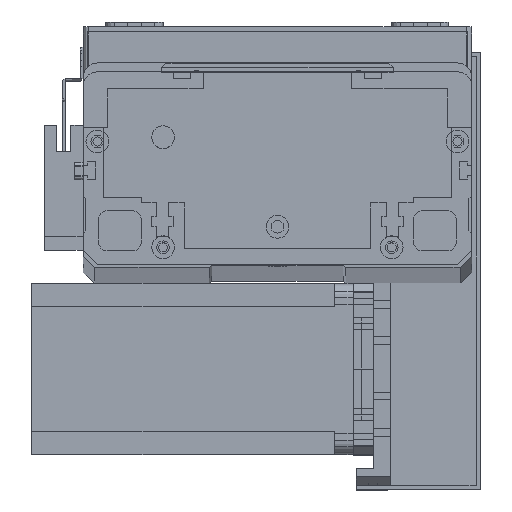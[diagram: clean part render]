
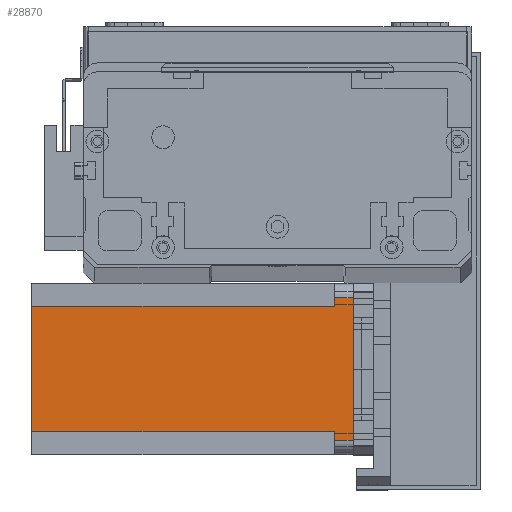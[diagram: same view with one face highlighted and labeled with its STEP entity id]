
A CAD part, top view. The second image highlights one B-rep face of the part: STEP entity #28870.
In plain terms, the highlighted planar face has unit normal (0, 0, 1) as drawn and (0, -1, 0) by its records, which use the part's own axes.
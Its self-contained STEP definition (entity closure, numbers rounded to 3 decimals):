
#622 = DIRECTION ( 'NONE',  ( 0., 0., -1. ) ) ;
#1055 = CARTESIAN_POINT ( 'NONE',  ( 55., 0., -112.5 ) ) ;
#1115 = AXIS2_PLACEMENT_3D ( 'NONE', #25814, #11347, #28247 ) ;
#1526 = DIRECTION ( 'NONE',  ( 0., 0., -1. ) ) ;
#1551 = FACE_OUTER_BOUND ( 'NONE', #24228, .T. ) ;
#2184 = EDGE_CURVE ( 'NONE', #10836, #13884, #14685, .T. ) ;
#2260 = ORIENTED_EDGE ( 'NONE', *, *, #20430, .T. ) ;
#2806 = ORIENTED_EDGE ( 'NONE', *, *, #15269, .F. ) ;
#3786 = LINE ( 'NONE', #29513, #28669 ) ;
#3804 = VERTEX_POINT ( 'NONE', #8163 ) ;
#4185 = CARTESIAN_POINT ( 'NONE',  ( 8., 0., -6.5 ) ) ;
#4637 = EDGE_CURVE ( 'NONE', #13340, #9159, #10584, .T. ) ;
#5116 = CARTESIAN_POINT ( 'NONE',  ( 0., 0., 0. ) ) ;
#6723 = VERTEX_POINT ( 'NONE', #7180 ) ;
#7180 = CARTESIAN_POINT ( 'NONE',  ( 55., 0., 0. ) ) ;
#7429 = CARTESIAN_POINT ( 'NONE',  ( 5., 0., -6.5 ) ) ;
#7480 = DIRECTION ( 'NONE',  ( 1., 0., 0. ) ) ;
#8163 = CARTESIAN_POINT ( 'NONE',  ( 5., 0., 0. ) ) ;
#8947 = VECTOR ( 'NONE', #26843, 1000. ) ;
#9159 = VERTEX_POINT ( 'NONE', #15612 ) ;
#9909 = CARTESIAN_POINT ( 'NONE',  ( 52., 0., -6.5 ) ) ;
#10584 = LINE ( 'NONE', #9909, #22647 ) ;
#10836 = VERTEX_POINT ( 'NONE', #11437 ) ;
#11347 = DIRECTION ( 'NONE',  ( 0., -1., 0. ) ) ;
#11437 = CARTESIAN_POINT ( 'NONE',  ( 8., 0., -112.5 ) ) ;
#11567 = DIRECTION ( 'NONE',  ( 1., 0., 0. ) ) ;
#11929 = DIRECTION ( 'NONE',  ( 0., 0., 1. ) ) ;
#11990 = EDGE_CURVE ( 'NONE', #3804, #6723, #23293, .T. ) ;
#12827 = ORIENTED_EDGE ( 'NONE', *, *, #15391, .F. ) ;
#13312 = VECTOR ( 'NONE', #17794, 1000. ) ;
#13340 = VERTEX_POINT ( 'NONE', #19248 ) ;
#13884 = VERTEX_POINT ( 'NONE', #17205 ) ;
#13956 = VECTOR ( 'NONE', #11567, 1000. ) ;
#14111 = ORIENTED_EDGE ( 'NONE', *, *, #11990, .F. ) ;
#14685 = LINE ( 'NONE', #18758, #13956 ) ;
#15269 = EDGE_CURVE ( 'NONE', #27766, #16792, #26539, .T. ) ;
#15391 = EDGE_CURVE ( 'NONE', #13340, #13884, #19708, .T. ) ;
#15612 = CARTESIAN_POINT ( 'NONE',  ( 55., 0., -6.5 ) ) ;
#16106 = PLANE ( 'NONE',  #1115 ) ;
#16792 = VERTEX_POINT ( 'NONE', #7429 ) ;
#17205 = CARTESIAN_POINT ( 'NONE',  ( 52., 0., -112.5 ) ) ;
#17674 = EDGE_CURVE ( 'NONE', #10836, #27766, #17687, .T. ) ;
#17687 = LINE ( 'NONE', #23968, #29032 ) ;
#17794 = DIRECTION ( 'NONE',  ( 0., 0., 1. ) ) ;
#17837 = VECTOR ( 'NONE', #29978, 1000. ) ;
#18382 = CARTESIAN_POINT ( 'NONE',  ( 52., 0., -112.5 ) ) ;
#18758 = CARTESIAN_POINT ( 'NONE',  ( 0., 0., -112.5 ) ) ;
#19082 = ORIENTED_EDGE ( 'NONE', *, *, #2184, .T. ) ;
#19248 = CARTESIAN_POINT ( 'NONE',  ( 52., 0., -6.5 ) ) ;
#19708 = LINE ( 'NONE', #18382, #26152 ) ;
#20430 = EDGE_CURVE ( 'NONE', #9159, #6723, #26140, .T. ) ;
#20535 = ORIENTED_EDGE ( 'NONE', *, *, #30368, .T. ) ;
#22647 = VECTOR ( 'NONE', #7480, 1000. ) ;
#23293 = LINE ( 'NONE', #5116, #8947 ) ;
#23968 = CARTESIAN_POINT ( 'NONE',  ( 8., 0., -112.5 ) ) ;
#24228 = EDGE_LOOP ( 'NONE', ( #30722, #2260, #14111, #20535, #2806, #26090, #19082, #12827 ) ) ;
#25814 = CARTESIAN_POINT ( 'NONE',  ( 0., 0., -112.5 ) ) ;
#26090 = ORIENTED_EDGE ( 'NONE', *, *, #17674, .F. ) ;
#26140 = LINE ( 'NONE', #1055, #13312 ) ;
#26152 = VECTOR ( 'NONE', #1526, 1000. ) ;
#26539 = LINE ( 'NONE', #27575, #17837 ) ;
#26843 = DIRECTION ( 'NONE',  ( 1., 0., 0. ) ) ;
#27575 = CARTESIAN_POINT ( 'NONE',  ( 8., 0., -6.5 ) ) ;
#27766 = VERTEX_POINT ( 'NONE', #4185 ) ;
#28247 = DIRECTION ( 'NONE',  ( 0., 0., -1. ) ) ;
#28669 = VECTOR ( 'NONE', #622, 1000. ) ;
#28870 = ADVANCED_FACE ( 'NONE', ( #1551 ), #16106, .T. ) ;
#29032 = VECTOR ( 'NONE', #11929, 1000. ) ;
#29513 = CARTESIAN_POINT ( 'NONE',  ( 5., 0., -112.5 ) ) ;
#29978 = DIRECTION ( 'NONE',  ( -1., 0., 0. ) ) ;
#30368 = EDGE_CURVE ( 'NONE', #3804, #16792, #3786, .T. ) ;
#30722 = ORIENTED_EDGE ( 'NONE', *, *, #4637, .T. ) ;
